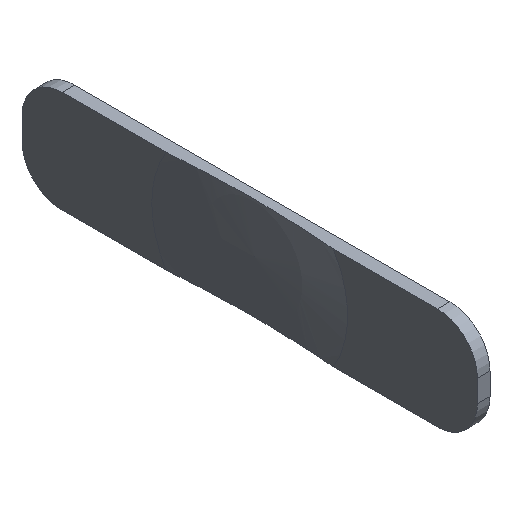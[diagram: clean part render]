
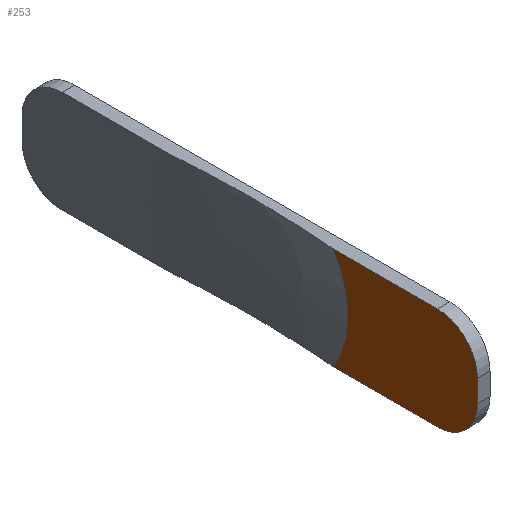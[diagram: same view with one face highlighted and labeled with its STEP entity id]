
A CAD part, isometric view. The second image highlights one B-rep face of the part: STEP entity #253.
In plain terms, the highlighted planar face has unit normal (-1, 0, 0).
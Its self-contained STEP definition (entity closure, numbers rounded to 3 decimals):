
#21 = EDGE_CURVE('',#22,#24,#26,.T.);
#22 = VERTEX_POINT('',#23);
#23 = CARTESIAN_POINT('',(-44.7,-13.9,6.5));
#24 = VERTEX_POINT('',#25);
#25 = CARTESIAN_POINT('',(-44.7,-0.648,6.5));
#26 = SURFACE_CURVE('',#27,(#31,#43),.PCURVE_S1.);
#27 = LINE('',#28,#29);
#28 = CARTESIAN_POINT('',(-44.7,-19.,6.5));
#29 = VECTOR('',#30,1.);
#30 = DIRECTION('',(0.,1.,0.));
#31 = PCURVE('',#32,#37);
#32 = PLANE('',#33);
#33 = AXIS2_PLACEMENT_3D('',#34,#35,#36);
#34 = CARTESIAN_POINT('',(-40.9,-19.,6.5));
#35 = DIRECTION('',(0.,-0.,-1.));
#36 = DIRECTION('',(1.,0.,0.));
#37 = DEFINITIONAL_REPRESENTATION('',(#38),#42);
#38 = LINE('',#39,#40);
#39 = CARTESIAN_POINT('',(-3.8,0.));
#40 = VECTOR('',#41,1.);
#41 = DIRECTION('',(0.,-1.));
#42 = ( GEOMETRIC_REPRESENTATION_CONTEXT(2) 
PARAMETRIC_REPRESENTATION_CONTEXT() REPRESENTATION_CONTEXT('2D SPACE',''
  ) );
#43 = PCURVE('',#44,#49);
#44 = PLANE('',#45);
#45 = AXIS2_PLACEMENT_3D('',#46,#47,#48);
#46 = CARTESIAN_POINT('',(-44.7,-19.,6.5));
#47 = DIRECTION('',(-1.,0.,0.));
#48 = DIRECTION('',(0.,0.,1.));
#49 = DEFINITIONAL_REPRESENTATION('',(#50),#54);
#50 = LINE('',#51,#52);
#51 = CARTESIAN_POINT('',(0.,0.));
#52 = VECTOR('',#53,1.);
#53 = DIRECTION('',(0.,1.));
#54 = ( GEOMETRIC_REPRESENTATION_CONTEXT(2) 
PARAMETRIC_REPRESENTATION_CONTEXT() REPRESENTATION_CONTEXT('2D SPACE',''
  ) );
#72 = CYLINDRICAL_SURFACE('',#73,5.1);
#73 = AXIS2_PLACEMENT_3D('',#74,#75,#76);
#74 = CARTESIAN_POINT('',(-40.9,-13.9,1.4));
#75 = DIRECTION('',(-1.,-0.,0.));
#76 = DIRECTION('',(0.,0.,1.));
#187 = SPHERICAL_SURFACE('',#188,130.);
#188 = AXIS2_PLACEMENT_3D('',#189,#190,#191);
#189 = CARTESIAN_POINT('',(-174.1,10.,0.));
#190 = DIRECTION('',(-1.,-0.,-0.));
#191 = DIRECTION('',(0.,1.,0.));
#253 = ADVANCED_FACE('',(#254),#44,.T.);
#254 = FACE_BOUND('',#255,.F.);
#255 = EDGE_LOOP('',(#256,#257,#285,#313,#342,#370));
#256 = ORIENTED_EDGE('',*,*,#21,.F.);
#257 = ORIENTED_EDGE('',*,*,#258,.T.);
#258 = EDGE_CURVE('',#22,#259,#261,.T.);
#259 = VERTEX_POINT('',#260);
#260 = CARTESIAN_POINT('',(-44.7,-19.,1.4));
#261 = SURFACE_CURVE('',#262,(#267,#278),.PCURVE_S1.);
#262 = CIRCLE('',#263,5.1);
#263 = AXIS2_PLACEMENT_3D('',#264,#265,#266);
#264 = CARTESIAN_POINT('',(-44.7,-13.9,1.4));
#265 = DIRECTION('',(1.,0.,0.));
#266 = DIRECTION('',(0.,-1.,0.));
#267 = PCURVE('',#44,#268);
#268 = DEFINITIONAL_REPRESENTATION('',(#269),#277);
#269 = ( BOUNDED_CURVE() B_SPLINE_CURVE(2,(#270,#271,#272,#273,#274,#275
,#276),.UNSPECIFIED.,.T.,.F.) B_SPLINE_CURVE_WITH_KNOTS((1,2,2,2,2,1),(
    -2.094,0.,2.094,4.189,6.283,
8.378),.UNSPECIFIED.) CURVE() GEOMETRIC_REPRESENTATION_ITEM() 
RATIONAL_B_SPLINE_CURVE((1.,0.5,1.,0.5,1.,0.5,1.)) REPRESENTATION_ITEM(
  '') );
#270 = CARTESIAN_POINT('',(-5.1,0.));
#271 = CARTESIAN_POINT('',(-13.933,0.));
#272 = CARTESIAN_POINT('',(-9.517,7.65));
#273 = CARTESIAN_POINT('',(-5.1,15.3));
#274 = CARTESIAN_POINT('',(-0.683,7.65));
#275 = CARTESIAN_POINT('',(3.733,0.));
#276 = CARTESIAN_POINT('',(-5.1,0.));
#277 = ( GEOMETRIC_REPRESENTATION_CONTEXT(2) 
PARAMETRIC_REPRESENTATION_CONTEXT() REPRESENTATION_CONTEXT('2D SPACE',''
  ) );
#278 = PCURVE('',#72,#279);
#279 = DEFINITIONAL_REPRESENTATION('',(#280),#284);
#280 = LINE('',#281,#282);
#281 = CARTESIAN_POINT('',(10.996,3.8));
#282 = VECTOR('',#283,1.);
#283 = DIRECTION('',(-1.,0.));
#284 = ( GEOMETRIC_REPRESENTATION_CONTEXT(2) 
PARAMETRIC_REPRESENTATION_CONTEXT() REPRESENTATION_CONTEXT('2D SPACE',''
  ) );
#285 = ORIENTED_EDGE('',*,*,#286,.T.);
#286 = EDGE_CURVE('',#259,#287,#289,.T.);
#287 = VERTEX_POINT('',#288);
#288 = CARTESIAN_POINT('',(-44.7,-19.,-1.4));
#289 = SURFACE_CURVE('',#290,(#294,#301),.PCURVE_S1.);
#290 = LINE('',#291,#292);
#291 = CARTESIAN_POINT('',(-44.7,-19.,6.5));
#292 = VECTOR('',#293,1.);
#293 = DIRECTION('',(0.,-0.,-1.));
#294 = PCURVE('',#44,#295);
#295 = DEFINITIONAL_REPRESENTATION('',(#296),#300);
#296 = LINE('',#297,#298);
#297 = CARTESIAN_POINT('',(0.,0.));
#298 = VECTOR('',#299,1.);
#299 = DIRECTION('',(-1.,0.));
#300 = ( GEOMETRIC_REPRESENTATION_CONTEXT(2) 
PARAMETRIC_REPRESENTATION_CONTEXT() REPRESENTATION_CONTEXT('2D SPACE',''
  ) );
#301 = PCURVE('',#302,#307);
#302 = PLANE('',#303);
#303 = AXIS2_PLACEMENT_3D('',#304,#305,#306);
#304 = CARTESIAN_POINT('',(-40.9,-19.,6.5));
#305 = DIRECTION('',(0.,1.,0.));
#306 = DIRECTION('',(1.,0.,0.));
#307 = DEFINITIONAL_REPRESENTATION('',(#308),#312);
#308 = LINE('',#309,#310);
#309 = CARTESIAN_POINT('',(-3.8,0.));
#310 = VECTOR('',#311,1.);
#311 = DIRECTION('',(0.,1.));
#312 = ( GEOMETRIC_REPRESENTATION_CONTEXT(2) 
PARAMETRIC_REPRESENTATION_CONTEXT() REPRESENTATION_CONTEXT('2D SPACE',''
  ) );
#313 = ORIENTED_EDGE('',*,*,#314,.F.);
#314 = EDGE_CURVE('',#315,#287,#317,.T.);
#315 = VERTEX_POINT('',#316);
#316 = CARTESIAN_POINT('',(-44.7,-13.9,-6.5));
#317 = SURFACE_CURVE('',#318,(#323,#330),.PCURVE_S1.);
#318 = CIRCLE('',#319,5.1);
#319 = AXIS2_PLACEMENT_3D('',#320,#321,#322);
#320 = CARTESIAN_POINT('',(-44.7,-13.9,-1.4));
#321 = DIRECTION('',(-1.,0.,0.));
#322 = DIRECTION('',(-0.,-1.,0.));
#323 = PCURVE('',#44,#324);
#324 = DEFINITIONAL_REPRESENTATION('',(#325),#329);
#325 = CIRCLE('',#326,5.1);
#326 = AXIS2_PLACEMENT_2D('',#327,#328);
#327 = CARTESIAN_POINT('',(-7.9,5.1));
#328 = DIRECTION('',(0.,-1.));
#329 = ( GEOMETRIC_REPRESENTATION_CONTEXT(2) 
PARAMETRIC_REPRESENTATION_CONTEXT() REPRESENTATION_CONTEXT('2D SPACE',''
  ) );
#330 = PCURVE('',#331,#336);
#331 = CYLINDRICAL_SURFACE('',#332,5.1);
#332 = AXIS2_PLACEMENT_3D('',#333,#334,#335);
#333 = CARTESIAN_POINT('',(-40.9,-13.9,-1.4));
#334 = DIRECTION('',(-1.,-0.,0.));
#335 = DIRECTION('',(0.,0.,-1.));
#336 = DEFINITIONAL_REPRESENTATION('',(#337),#341);
#337 = LINE('',#338,#339);
#338 = CARTESIAN_POINT('',(-4.712,3.8));
#339 = VECTOR('',#340,1.);
#340 = DIRECTION('',(1.,0.));
#341 = ( GEOMETRIC_REPRESENTATION_CONTEXT(2) 
PARAMETRIC_REPRESENTATION_CONTEXT() REPRESENTATION_CONTEXT('2D SPACE',''
  ) );
#342 = ORIENTED_EDGE('',*,*,#343,.T.);
#343 = EDGE_CURVE('',#315,#344,#346,.T.);
#344 = VERTEX_POINT('',#345);
#345 = CARTESIAN_POINT('',(-44.7,-0.648,-6.5));
#346 = SURFACE_CURVE('',#347,(#351,#358),.PCURVE_S1.);
#347 = LINE('',#348,#349);
#348 = CARTESIAN_POINT('',(-44.7,-19.,-6.5));
#349 = VECTOR('',#350,1.);
#350 = DIRECTION('',(0.,1.,0.));
#351 = PCURVE('',#44,#352);
#352 = DEFINITIONAL_REPRESENTATION('',(#353),#357);
#353 = LINE('',#354,#355);
#354 = CARTESIAN_POINT('',(-13.,0.));
#355 = VECTOR('',#356,1.);
#356 = DIRECTION('',(0.,1.));
#357 = ( GEOMETRIC_REPRESENTATION_CONTEXT(2) 
PARAMETRIC_REPRESENTATION_CONTEXT() REPRESENTATION_CONTEXT('2D SPACE',''
  ) );
#358 = PCURVE('',#359,#364);
#359 = PLANE('',#360);
#360 = AXIS2_PLACEMENT_3D('',#361,#362,#363);
#361 = CARTESIAN_POINT('',(-40.9,-19.,-6.5));
#362 = DIRECTION('',(0.,-0.,-1.));
#363 = DIRECTION('',(1.,0.,0.));
#364 = DEFINITIONAL_REPRESENTATION('',(#365),#369);
#365 = LINE('',#366,#367);
#366 = CARTESIAN_POINT('',(-3.8,0.));
#367 = VECTOR('',#368,1.);
#368 = DIRECTION('',(0.,-1.));
#369 = ( GEOMETRIC_REPRESENTATION_CONTEXT(2) 
PARAMETRIC_REPRESENTATION_CONTEXT() REPRESENTATION_CONTEXT('2D SPACE',''
  ) );
#370 = ORIENTED_EDGE('',*,*,#371,.F.);
#371 = EDGE_CURVE('',#24,#344,#372,.T.);
#372 = SURFACE_CURVE('',#373,(#378,#389),.PCURVE_S1.);
#373 = CIRCLE('',#374,12.476);
#374 = AXIS2_PLACEMENT_3D('',#375,#376,#377);
#375 = CARTESIAN_POINT('',(-44.7,10.,0.));
#376 = DIRECTION('',(1.,0.,0.));
#377 = DIRECTION('',(-0.,1.,0.));
#378 = PCURVE('',#44,#379);
#379 = DEFINITIONAL_REPRESENTATION('',(#380),#388);
#380 = ( BOUNDED_CURVE() B_SPLINE_CURVE(2,(#381,#382,#383,#384,#385,#386
,#387),.UNSPECIFIED.,.T.,.F.) B_SPLINE_CURVE_WITH_KNOTS((1,2,2,2,2,1),(
    -2.094,0.,2.094,4.189,6.283,
8.378),.UNSPECIFIED.) CURVE() GEOMETRIC_REPRESENTATION_ITEM() 
RATIONAL_B_SPLINE_CURVE((1.,0.5,1.,0.5,1.,0.5,1.)) REPRESENTATION_ITEM(
  '') );
#381 = CARTESIAN_POINT('',(-6.5,41.476));
#382 = CARTESIAN_POINT('',(15.108,41.476));
#383 = CARTESIAN_POINT('',(4.304,22.762));
#384 = CARTESIAN_POINT('',(-6.5,4.049));
#385 = CARTESIAN_POINT('',(-17.304,22.762));
#386 = CARTESIAN_POINT('',(-28.108,41.476));
#387 = CARTESIAN_POINT('',(-6.5,41.476));
#388 = ( GEOMETRIC_REPRESENTATION_CONTEXT(2) 
PARAMETRIC_REPRESENTATION_CONTEXT() REPRESENTATION_CONTEXT('2D SPACE',''
  ) );
#389 = PCURVE('',#187,#390);
#390 = DEFINITIONAL_REPRESENTATION('',(#391),#395);
#391 = LINE('',#392,#393);
#392 = CARTESIAN_POINT('',(6.283,-1.475));
#393 = VECTOR('',#394,1.);
#394 = DIRECTION('',(-1.,0.));
#395 = ( GEOMETRIC_REPRESENTATION_CONTEXT(2) 
PARAMETRIC_REPRESENTATION_CONTEXT() REPRESENTATION_CONTEXT('2D SPACE',''
  ) );
